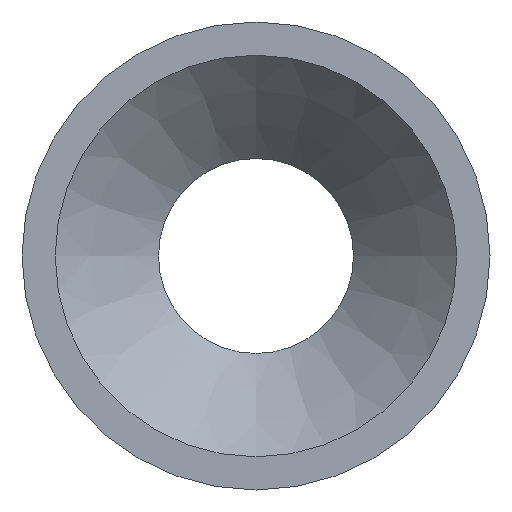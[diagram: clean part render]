
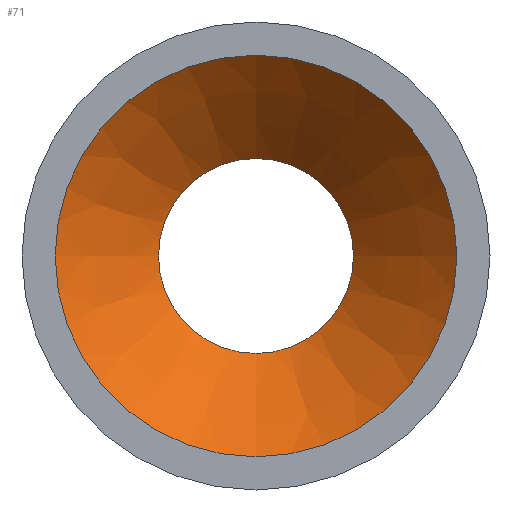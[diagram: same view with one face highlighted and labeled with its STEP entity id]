
A CAD part, left-side view. The second image highlights one B-rep face of the part: STEP entity #71.
In plain terms, the highlighted conical face has half-angle 45 degrees and reference radius 5.15 mm.
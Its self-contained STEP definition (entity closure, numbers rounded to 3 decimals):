
#22=CONICAL_SURFACE('',#91,5.15,0.785);
#25=ORIENTED_EDGE('',*,*,#35,.T.);
#26=ORIENTED_EDGE('',*,*,#33,.F.);
#33=EDGE_CURVE('',#38,#38,#43,.T.);
#35=EDGE_CURVE('',#40,#40,#45,.T.);
#38=VERTEX_POINT('',#123);
#40=VERTEX_POINT('',#128);
#43=CIRCLE('',#89,5.15);
#45=CIRCLE('',#92,2.5);
#50=EDGE_LOOP('',(#25));
#51=EDGE_LOOP('',(#26));
#60=FACE_BOUND('',#50,.T.);
#61=FACE_BOUND('',#51,.T.);
#71=ADVANCED_FACE('',(#60,#61),#22,.F.);
#89=AXIS2_PLACEMENT_3D('',#122,#102,#103);
#91=AXIS2_PLACEMENT_3D('',#126,#106,#107);
#92=AXIS2_PLACEMENT_3D('',#127,#108,#109);
#102=DIRECTION('',(1.,0.,0.));
#103=DIRECTION('',(0.,0.,-1.));
#106=DIRECTION('',(-1.,0.,0.));
#107=DIRECTION('',(0.,0.,1.));
#108=DIRECTION('',(1.,0.,0.));
#109=DIRECTION('',(0.,0.,-1.));
#122=CARTESIAN_POINT('',(0.,0.,0.));
#123=CARTESIAN_POINT('',(0.,0.,-5.15));
#126=CARTESIAN_POINT('',(0.,0.,0.));
#127=CARTESIAN_POINT('',(2.65,0.,0.));
#128=CARTESIAN_POINT('',(2.65,0.,-2.5));
